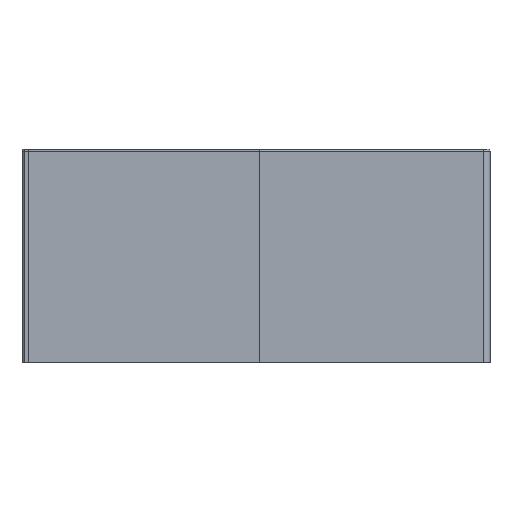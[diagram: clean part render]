
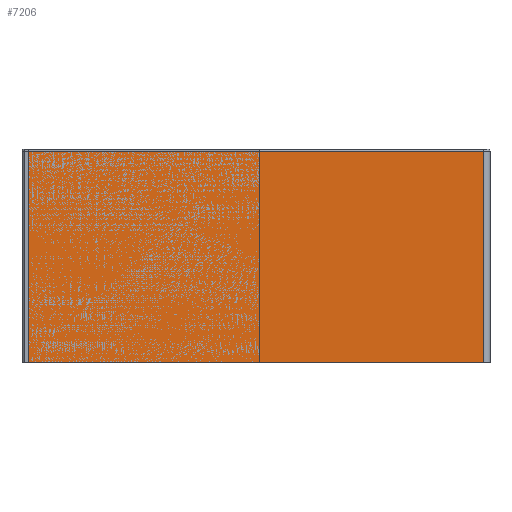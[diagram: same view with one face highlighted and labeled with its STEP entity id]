
A CAD part, front view. The second image highlights one B-rep face of the part: STEP entity #7206.
In plain terms, the highlighted planar face has unit normal (0, -1, 0).
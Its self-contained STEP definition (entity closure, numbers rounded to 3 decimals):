
#207=DIRECTION('',(1.,0.,0.));
#208=VECTOR('',#207,213.);
#209=CARTESIAN_POINT('',(-53.,0.,-1.));
#210=LINE('',#209,#208);
#211=DIRECTION('',(0.,0.,-1.));
#212=VECTOR('',#211,99.);
#213=CARTESIAN_POINT('',(160.,0.,-1.));
#214=LINE('',#213,#212);
#215=DIRECTION('',(-1.,0.,0.));
#216=VECTOR('',#215,213.);
#217=CARTESIAN_POINT('',(160.,0.,-100.));
#218=LINE('',#217,#216);
#219=DIRECTION('',(0.,0.,-1.));
#220=VECTOR('',#219,99.);
#221=CARTESIAN_POINT('',(-53.,0.,-1.));
#222=LINE('',#221,#220);
#5574=CARTESIAN_POINT('',(-53.,0.,-1.));
#5575=CARTESIAN_POINT('',(160.,0.,-1.));
#5576=VERTEX_POINT('',#5574);
#5577=VERTEX_POINT('',#5575);
#5862=CARTESIAN_POINT('',(160.,0.,-100.));
#5864=VERTEX_POINT('',#5862);
#5865=CARTESIAN_POINT('',(-53.,0.,-100.));
#5867=VERTEX_POINT('',#5865);
#7193=CARTESIAN_POINT('',(-55.,0.,0.));
#7194=DIRECTION('',(0.,-1.,0.));
#7195=DIRECTION('',(1.,0.,0.));
#7196=AXIS2_PLACEMENT_3D('',#7193,#7194,#7195);
#7197=PLANE('',#7196);
#7198=ORIENTED_EDGE('',*,*,#7074,.T.);
#7200=ORIENTED_EDGE('',*,*,#7199,.T.);
#7202=ORIENTED_EDGE('',*,*,#7201,.T.);
#7203=ORIENTED_EDGE('',*,*,#7184,.F.);
#7204=EDGE_LOOP('',(#7198,#7200,#7202,#7203));
#7205=FACE_OUTER_BOUND('',#7204,.F.);
#7206=ADVANCED_FACE('',(#7205),#7197,.T.);
#7074=EDGE_CURVE('',#5576,#5577,#210,.T.);
#7184=EDGE_CURVE('',#5576,#5867,#222,.T.);
#7199=EDGE_CURVE('',#5577,#5864,#214,.T.);
#7201=EDGE_CURVE('',#5864,#5867,#218,.T.);
